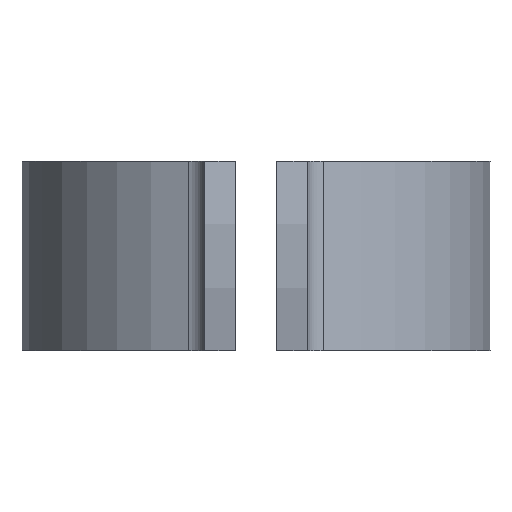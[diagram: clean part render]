
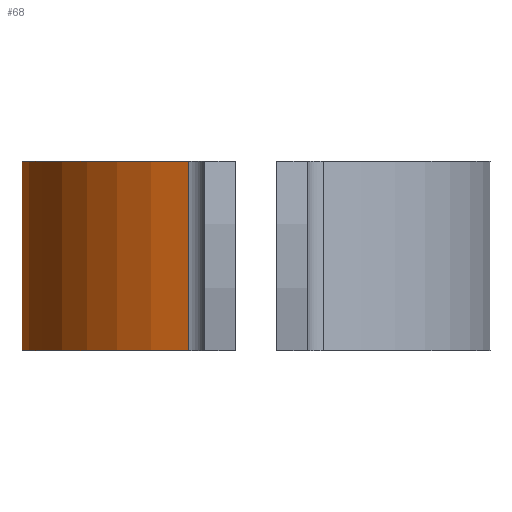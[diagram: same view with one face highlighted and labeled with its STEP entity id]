
A CAD part, left-side view. The second image highlights one B-rep face of the part: STEP entity #68.
In plain terms, the highlighted cylindrical face has radius 62 mm (diameter 124 mm), a partial arc.
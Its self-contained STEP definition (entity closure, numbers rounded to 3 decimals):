
#41 = DIRECTION ( 'NONE',  ( 1., 0., 0. ) ) ;
#47 = DIRECTION ( 'NONE',  ( 0., 0., 1. ) ) ;
#61 = FACE_OUTER_BOUND ( 'NONE', #1182, .T. ) ;
#68 = ADVANCED_FACE ( 'NONE', ( #61 ), #1018, .T. ) ;
#92 = CARTESIAN_POINT ( 'NONE',  ( -59.396, 17.779, -50. ) ) ;
#97 = VERTEX_POINT ( 'NONE', #518 ) ;
#179 = CIRCLE ( 'NONE', #1079, 62. ) ;
#269 = VERTEX_POINT ( 'NONE', #1143 ) ;
#276 = ORIENTED_EDGE ( 'NONE', *, *, #557, .T. ) ;
#294 = EDGE_CURVE ( 'NONE', #939, #97, #595, .T. ) ;
#313 = LINE ( 'NONE', #92, #1100 ) ;
#338 = CARTESIAN_POINT ( 'NONE',  ( 59.396, 17.779, -50. ) ) ;
#391 = CARTESIAN_POINT ( 'NONE',  ( 0., 0., 0. ) ) ;
#407 = DIRECTION ( 'NONE',  ( 0., 0., 1. ) ) ;
#439 = CARTESIAN_POINT ( 'NONE',  ( 0., 0., -50. ) ) ;
#447 = EDGE_CURVE ( 'NONE', #1217, #269, #179, .T. ) ;
#504 = ORIENTED_EDGE ( 'NONE', *, *, #743, .F. ) ;
#518 = CARTESIAN_POINT ( 'NONE',  ( -59.396, 17.779, 0. ) ) ;
#557 = EDGE_CURVE ( 'NONE', #269, #97, #313, .T. ) ;
#595 = CIRCLE ( 'NONE', #1122, 62. ) ;
#642 = DIRECTION ( 'NONE',  ( 0., 0., 1. ) ) ;
#669 = ORIENTED_EDGE ( 'NONE', *, *, #294, .F. ) ;
#685 = ORIENTED_EDGE ( 'NONE', *, *, #447, .T. ) ;
#694 = DIRECTION ( 'NONE',  ( 0., 0., 1. ) ) ;
#743 = EDGE_CURVE ( 'NONE', #1217, #939, #997, .T. ) ;
#779 = DIRECTION ( 'NONE',  ( -1., 0., 0. ) ) ;
#827 = DIRECTION ( 'NONE',  ( 0., 0., 1. ) ) ;
#869 = AXIS2_PLACEMENT_3D ( 'NONE', #929, #827, #41 ) ;
#895 = CARTESIAN_POINT ( 'NONE',  ( 59.396, 17.779, -50. ) ) ;
#929 = CARTESIAN_POINT ( 'NONE',  ( 0., 0., -50. ) ) ;
#934 = VECTOR ( 'NONE', #47, 1000. ) ;
#939 = VERTEX_POINT ( 'NONE', #942 ) ;
#942 = CARTESIAN_POINT ( 'NONE',  ( 59.396, 17.779, 0. ) ) ;
#997 = LINE ( 'NONE', #338, #934 ) ;
#1018 = CYLINDRICAL_SURFACE ( 'NONE', #869, 62. ) ;
#1079 = AXIS2_PLACEMENT_3D ( 'NONE', #439, #642, #1124 ) ;
#1100 = VECTOR ( 'NONE', #694, 1000. ) ;
#1122 = AXIS2_PLACEMENT_3D ( 'NONE', #391, #407, #779 ) ;
#1124 = DIRECTION ( 'NONE',  ( -1., 0., 0. ) ) ;
#1143 = CARTESIAN_POINT ( 'NONE',  ( -59.396, 17.779, -50. ) ) ;
#1182 = EDGE_LOOP ( 'NONE', ( #669, #504, #685, #276 ) ) ;
#1217 = VERTEX_POINT ( 'NONE', #895 ) ;
